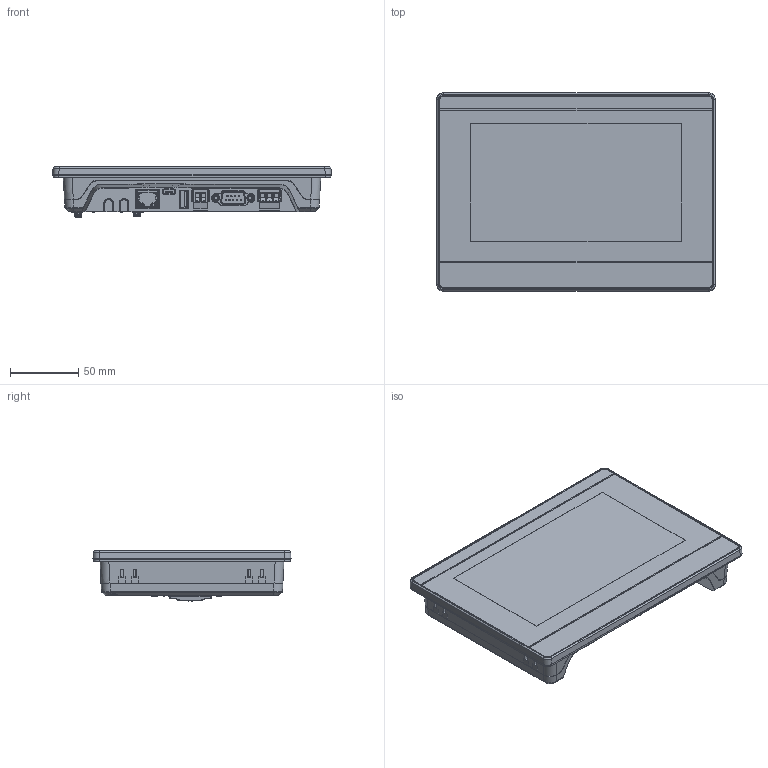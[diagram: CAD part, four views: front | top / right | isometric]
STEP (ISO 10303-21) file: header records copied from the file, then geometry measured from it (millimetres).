
FILE_DESCRIPTION((''),'2;1');
FILE_NAME('RTP070E_ASM','2026-07-07T09:44:06',('weixf_pc'),(''),'CREO PARAMETRIC BY PTC INC, 2016510','CREO PARAMETRIC BY PTC INC, 2016510','');
FILE_SCHEMA(('CONFIG_CONTROL_DESIGN'));
Products named in the file (12): PWB3X8_5_1_1; TOP_5_1_1_1; TOP_5_1_2_1; TOP_5_1_ASM_1_ASM; FILM_5_1_1; FSQ_5_1_1; DB9-1_1_1_1; DB9-1_1_2_1; DB9-1_1_ASM_1_ASM; TYPE-C-SM90_2_1; RJ45-1_1_1; RTP070E_ASM
Assembly tree (14 placements, depth 3):
  RTP070E_ASM
    PWB3X8_5_1_1  x4
    TOP_5_1_ASM_1_ASM
      TOP_5_1_1_1
      TOP_5_1_2_1
    FILM_5_1_1
    FSQ_5_1_1
    DB9-1_1_ASM_1_ASM
      DB9-1_1_1_1
      DB9-1_1_2_1
    TYPE-C-SM90_2_1
    RJ45-1_1_1
Bounding box: 203.98 x 144.98 x 36.64 mm (x, y, z)
Volume: 723640.2 mm3; surface area: 268907.6 mm2
Topology: 12 solids, 14 shells, 4776 faces, 13087 edges, 8399 vertices
Faces by surface type: plane 2675, cylinder 960, bspline 609, torus 172, cone 158, extrusion 123, sphere 71, revolution 8
Entity records: 167174 total; most frequent: CARTESIAN_POINT 60981, ORIENTED_EDGE 23544, DIRECTION 19759, EDGE_CURVE 11772, VECTOR 8099, LINE 7988, VERTEX_POINT 7651, AXIS2_PLACEMENT_3D 5829
